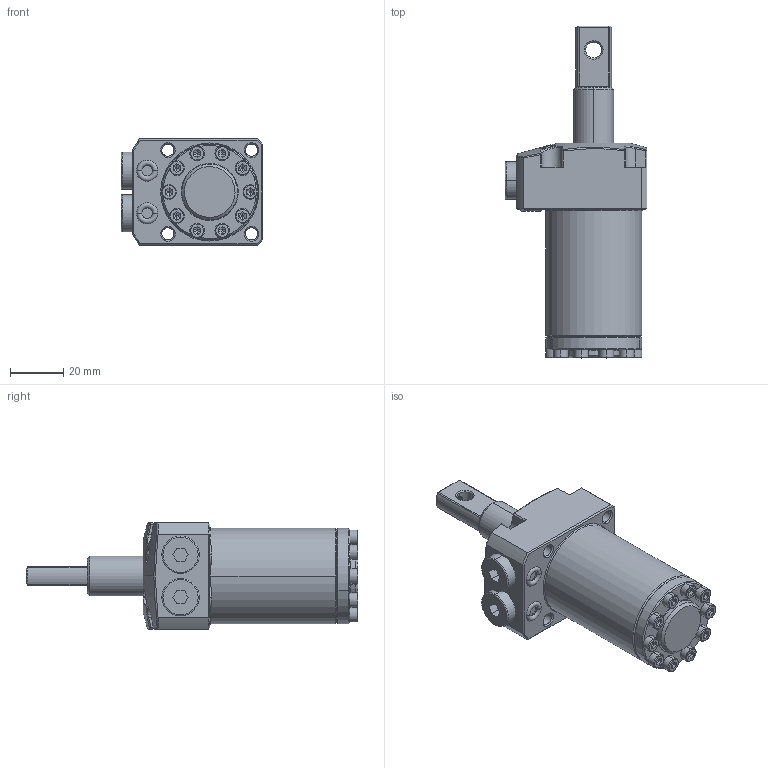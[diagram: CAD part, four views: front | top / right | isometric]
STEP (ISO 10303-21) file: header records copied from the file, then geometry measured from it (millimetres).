
FILE_DESCRIPTION((''),'2;1');
FILE_NAME('SIMP_GENERIC_SWING_CYD_PIN_ASM','2023-04-16T13:21:49',('Design 2'),(''),'CREO PARAMETRIC BY PTC INC, 2020053','CREO PARAMETRIC BY PTC INC, 2020053','');
FILE_SCHEMA(('CONFIG_CONTROL_DESIGN'));
Length unit declared in the file: millimetre
Products named in the file (13): BODY___; BODY_TOP_FLG____ASM; PISTON_; PISTON_ASM____ASM; SWINGER_ARM___; SWINGER_ARM_ASM____ASM; 1_1_2_-__; 2_1_2_-__; HALDER_SEALING_PLUG_ASM; ISHCS03X10_; ORING-5X1-5___; G-1-8-CLOSE_PLUGE_; SIMP_GENERIC_SWING_CYD_PIN_ASM
Assembly tree (24 placements, depth 3):
  SIMP_GENERIC_SWING_CYD_PIN_ASM
    BODY_TOP_FLG____ASM
      BODY___
    PISTON_ASM____ASM
      PISTON_
    SWINGER_ARM_ASM____ASM
      SWINGER_ARM___
    HALDER_SEALING_PLUG_ASM  x2
      1_1_2_-__
      2_1_2_-__
    ISHCS03X10_  x10
    ORING-5X1-5___  x2
    G-1-8-CLOSE_PLUGE_  x2
Bounding box: 53.3 x 124.6 x 40 mm (x, y, z)
Volume: 101212.9 mm3; surface area: 30421.1 mm2
Topology: 21 solids, 21 shells, 791 faces, 1765 edges, 1012 vertices
Faces by surface type: plane 243, cylinder 233, cone 232, bspline 39, torus 38, sphere 6
Entity records: 16572 total; most frequent: CARTESIAN_POINT 6436, DIRECTION 2089, ORIENTED_EDGE 2022, EDGE_CURVE 1011, AXIS2_PLACEMENT_3D 823, VERTEX_POINT 598, EDGE_LOOP 487, VECTOR 443
